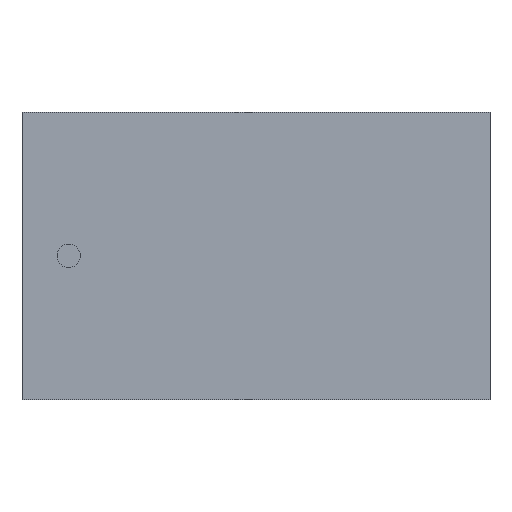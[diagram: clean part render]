
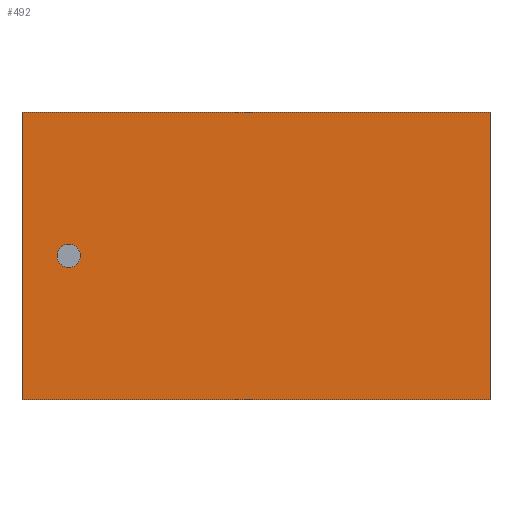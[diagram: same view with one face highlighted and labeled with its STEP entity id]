
A CAD part, top view. The second image highlights one B-rep face of the part: STEP entity #492.
In plain terms, the highlighted planar face has unit normal (0, 0, 1).
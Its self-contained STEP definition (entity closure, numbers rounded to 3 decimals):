
#268=CARTESIAN_POINT('',(1.054,-0.648,0.61));
#267=VERTEX_POINT('',#268);
#278=CARTESIAN_POINT('',(-1.054,-0.648,0.61));
#277=VERTEX_POINT('',#278);
#276=EDGE_CURVE('',#277,#267,#281,.T.);
#281=LINE('',#278,#283);
#283=VECTOR('',#284,2.108);
#284=DIRECTION('',(1.0,0.0,0.0));
#317=CARTESIAN_POINT('',(1.054,0.648,0.61));
#316=VERTEX_POINT('',#317);
#325=EDGE_CURVE('',#267,#316,#330,.T.);
#330=LINE('',#268,#332);
#332=VECTOR('',#333,1.295);
#333=DIRECTION('',(0.0,1.0,0.0));
#366=CARTESIAN_POINT('',(-1.054,0.648,0.61));
#365=VERTEX_POINT('',#366);
#374=EDGE_CURVE('',#316,#365,#379,.T.);
#379=LINE('',#317,#381);
#381=VECTOR('',#382,2.108);
#382=DIRECTION('',(-1.0,0.0,0.0));
#423=EDGE_CURVE('',#365,#277,#428,.T.);
#428=LINE('',#366,#430);
#430=VECTOR('',#431,1.295);
#431=DIRECTION('',(0.0,-1.0,0.0));
#492=ADVANCED_FACE('',(#498),#493,.T.);
#493=PLANE('',#494);
#494=AXIS2_PLACEMENT_3D('',#495,#496,#497);
#495=CARTESIAN_POINT('',(-1.054,-0.648,0.61));
#496=DIRECTION('',(0.0,0.0,1.0));
#497=DIRECTION('',(0.,1.,0.));
#498=FACE_OUTER_BOUND('',#499,.T.);
#499=EDGE_LOOP('',(#500,#510,#520,#530));
#500=ORIENTED_EDGE('',*,*,#276,.T.);
#510=ORIENTED_EDGE('',*,*,#325,.T.);
#520=ORIENTED_EDGE('',*,*,#374,.T.);
#530=ORIENTED_EDGE('',*,*,#423,.T.);
